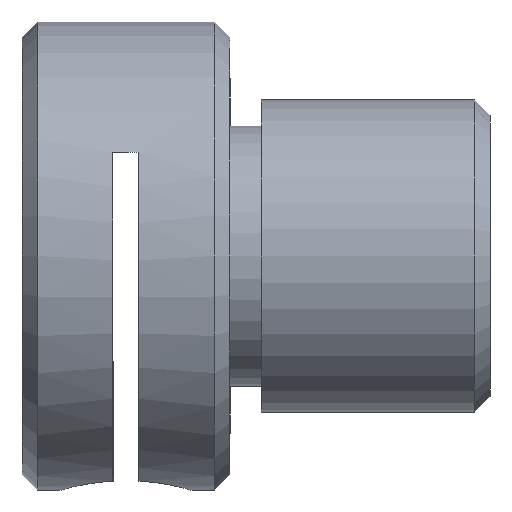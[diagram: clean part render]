
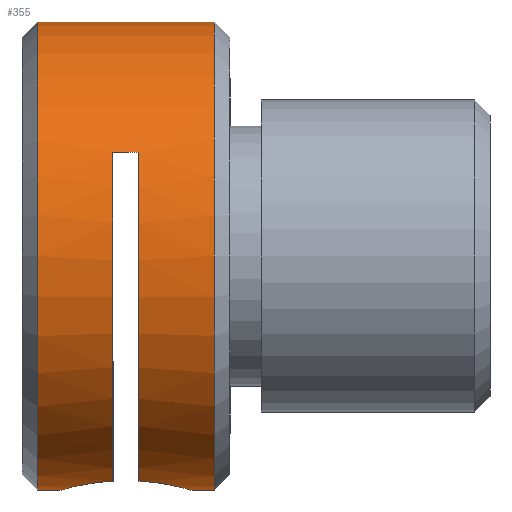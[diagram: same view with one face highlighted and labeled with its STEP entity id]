
A CAD part, left-side view. The second image highlights one B-rep face of the part: STEP entity #355.
In plain terms, the highlighted cylindrical face has radius 4.5 mm (diameter 9 mm), a partial arc.
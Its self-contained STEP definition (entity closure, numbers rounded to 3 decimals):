
#1 = EDGE_CURVE ( 'NONE', #195, #173, #356, .T. ) ;
#2 = CARTESIAN_POINT ( 'NONE',  ( -0.902, 2.877, -4.41 ) ) ;
#8 = CARTESIAN_POINT ( 'NONE',  ( -0.996, 1.232, -4.389 ) ) ;
#15 = CARTESIAN_POINT ( 'NONE',  ( -0.555, 0.871, -4.468 ) ) ;
#16 = DIRECTION ( 'NONE',  ( 0., 0., -1. ) ) ;
#17 = DIRECTION ( 'NONE',  ( 0., -1., 0. ) ) ;
#33 = VERTEX_POINT ( 'NONE', #726 ) ;
#61 = DIRECTION ( 'NONE',  ( 0., -1., 0. ) ) ;
#67 = B_SPLINE_CURVE_WITH_KNOTS ( 'NONE', 3,
 ( #626, #487, #423, #8, #680, #77, #15, #346, #81, #349 ),
 .UNSPECIFIED., .F., .F.,
 ( 4, 2, 2, 2, 4 ),
 ( 0.002, 0.003, 0.003, 0.003, 0.004 ),
 .UNSPECIFIED. ) ;
#68 = CARTESIAN_POINT ( 'NONE',  ( 0., 3.7, 0. ) ) ;
#72 = CARTESIAN_POINT ( 'NONE',  ( -0.145, 3.25, -4.5 ) ) ;
#75 = CIRCLE ( 'NONE', #188, 4.5 ) ;
#77 = CARTESIAN_POINT ( 'NONE',  ( -0.682, 0.943, -4.449 ) ) ;
#80 = EDGE_CURVE ( 'NONE', #689, #99, #580, .T. ) ;
#81 = CARTESIAN_POINT ( 'NONE',  ( -0.143, 0.75, -4.5 ) ) ;
#87 = VECTOR ( 'NONE', #17, 1000. ) ;
#88 = ORIENTED_EDGE ( 'NONE', *, *, #471, .T. ) ;
#93 = CARTESIAN_POINT ( 'NONE',  ( -4.031, 2.25, 2. ) ) ;
#99 = VERTEX_POINT ( 'NONE', #248 ) ;
#102 = DIRECTION ( 'NONE',  ( 0., 0., 1. ) ) ;
#104 = ORIENTED_EDGE ( 'NONE', *, *, #508, .T. ) ;
#112 = DIRECTION ( 'NONE',  ( 0., 0., -1. ) ) ;
#116 = AXIS2_PLACEMENT_3D ( 'NONE', #778, #502, #112 ) ;
#125 = EDGE_CURVE ( 'NONE', #852, #646, #515, .T. ) ;
#129 = AXIS2_PLACEMENT_3D ( 'NONE', #533, #601, #611 ) ;
#152 = FACE_OUTER_BOUND ( 'NONE', #577, .T. ) ;
#166 = ORIENTED_EDGE ( 'NONE', *, *, #785, .T. ) ;
#173 = VERTEX_POINT ( 'NONE', #864 ) ;
#188 = AXIS2_PLACEMENT_3D ( 'NONE', #579, #314, #102 ) ;
#192 = VERTEX_POINT ( 'NONE', #602 ) ;
#193 = CARTESIAN_POINT ( 'NONE',  ( -0.681, 3.058, -4.45 ) ) ;
#195 = VERTEX_POINT ( 'NONE', #400 ) ;
#200 = VECTOR ( 'NONE', #61, 1000. ) ;
#204 = CARTESIAN_POINT ( 'NONE',  ( -0.557, 3.128, -4.467 ) ) ;
#206 = ORIENTED_EDGE ( 'NONE', *, *, #125, .T. ) ;
#215 = VECTOR ( 'NONE', #737, 1000. ) ;
#248 = CARTESIAN_POINT ( 'NONE',  ( -1.225, 2.25, -4.33 ) ) ;
#258 = LINE ( 'NONE', #869, #215 ) ;
#261 = CARTESIAN_POINT ( 'NONE',  ( -0.286, 3.225, -4.493 ) ) ;
#265 = DIRECTION ( 'NONE',  ( 0., 0., 1. ) ) ;
#300 = LINE ( 'NONE', #584, #410 ) ;
#310 = AXIS2_PLACEMENT_3D ( 'NONE', #68, #389, #265 ) ;
#314 = DIRECTION ( 'NONE',  ( 0., 1., 0. ) ) ;
#320 = CARTESIAN_POINT ( 'NONE',  ( 0., 4., -4.5 ) ) ;
#346 = CARTESIAN_POINT ( 'NONE',  ( -0.287, 0.775, -4.493 ) ) ;
#348 = ORIENTED_EDGE ( 'NONE', *, *, #561, .T. ) ;
#349 = CARTESIAN_POINT ( 'NONE',  ( 0., 0.75, -4.5 ) ) ;
#355 = ADVANCED_FACE ( 'NONE', ( #152 ), #358, .T. ) ;
#356 = LINE ( 'NONE', #835, #87 ) ;
#358 = CYLINDRICAL_SURFACE ( 'NONE', #553, 4.5 ) ;
#379 = CARTESIAN_POINT ( 'NONE',  ( 0., 3.7, 4.5 ) ) ;
#389 = DIRECTION ( 'NONE',  ( 0., -1., 0. ) ) ;
#400 = CARTESIAN_POINT ( 'NONE',  ( 0., 0.75, -4.5 ) ) ;
#410 = VECTOR ( 'NONE', #721, 1000. ) ;
#423 = CARTESIAN_POINT ( 'NONE',  ( -1.143, 1.474, -4.353 ) ) ;
#453 = CARTESIAN_POINT ( 'NONE',  ( -1.196, 2.391, -4.338 ) ) ;
#459 = VERTEX_POINT ( 'NONE', #588 ) ;
#467 = CARTESIAN_POINT ( 'NONE',  ( 0., 3.25, -4.5 ) ) ;
#471 = EDGE_CURVE ( 'NONE', #689, #33, #300, .T. ) ;
#487 = CARTESIAN_POINT ( 'NONE',  ( -1.196, 1.61, -4.338 ) ) ;
#502 = DIRECTION ( 'NONE',  ( 0., -1., 0. ) ) ;
#508 = EDGE_CURVE ( 'NONE', #173, #459, #75, .T. ) ;
#515 = LINE ( 'NONE', #320, #200 ) ;
#527 = EDGE_CURVE ( 'NONE', #829, #459, #258, .T. ) ;
#529 = B_SPLINE_CURVE_WITH_KNOTS ( 'NONE', 3,
 ( #467, #72, #261, #204, #193, #2, #542, #530, #453, #592 ),
 .UNSPECIFIED., .F., .F.,
 ( 4, 2, 2, 2, 4 ),
 ( 0., 0., 0.001, 0.001, 0.002 ),
 .UNSPECIFIED. ) ;
#530 = CARTESIAN_POINT ( 'NONE',  ( -1.144, 2.524, -4.353 ) ) ;
#533 = CARTESIAN_POINT ( 'NONE',  ( 0., 1.75, 0. ) ) ;
#542 = CARTESIAN_POINT ( 'NONE',  ( -0.996, 2.769, -4.389 ) ) ;
#544 = ORIENTED_EDGE ( 'NONE', *, *, #527, .F. ) ;
#553 = AXIS2_PLACEMENT_3D ( 'NONE', #688, #624, #16 ) ;
#561 = EDGE_CURVE ( 'NONE', #829, #852, #815, .T. ) ;
#577 = EDGE_LOOP ( 'NONE', ( #544, #348, #206, #714, #703, #88, #671, #166, #868, #104 ) ) ;
#578 = CIRCLE ( 'NONE', #129, 4.5 ) ;
#579 = CARTESIAN_POINT ( 'NONE',  ( 0., 0.3, 0. ) ) ;
#580 = CIRCLE ( 'NONE', #116, 4.5 ) ;
#584 = CARTESIAN_POINT ( 'NONE',  ( -4.031, 4., 2. ) ) ;
#588 = CARTESIAN_POINT ( 'NONE',  ( 0., 0.3, 4.5 ) ) ;
#592 = CARTESIAN_POINT ( 'NONE',  ( -1.225, 2.25, -4.33 ) ) ;
#601 = DIRECTION ( 'NONE',  ( 0., 1., 0. ) ) ;
#602 = CARTESIAN_POINT ( 'NONE',  ( -1.225, 1.75, -4.33 ) ) ;
#611 = DIRECTION ( 'NONE',  ( 0., 0., 1. ) ) ;
#624 = DIRECTION ( 'NONE',  ( 0., -1., 0. ) ) ;
#626 = CARTESIAN_POINT ( 'NONE',  ( -1.225, 1.75, -4.33 ) ) ;
#629 = EDGE_CURVE ( 'NONE', #192, #33, #578, .T. ) ;
#646 = VERTEX_POINT ( 'NONE', #804 ) ;
#650 = EDGE_CURVE ( 'NONE', #646, #99, #529, .T. ) ;
#671 = ORIENTED_EDGE ( 'NONE', *, *, #629, .F. ) ;
#680 = CARTESIAN_POINT ( 'NONE',  ( -0.901, 1.122, -4.41 ) ) ;
#688 = CARTESIAN_POINT ( 'NONE',  ( 0., 4., 0. ) ) ;
#689 = VERTEX_POINT ( 'NONE', #93 ) ;
#703 = ORIENTED_EDGE ( 'NONE', *, *, #80, .F. ) ;
#714 = ORIENTED_EDGE ( 'NONE', *, *, #650, .T. ) ;
#721 = DIRECTION ( 'NONE',  ( 0., -1., 0. ) ) ;
#726 = CARTESIAN_POINT ( 'NONE',  ( -4.031, 1.75, 2. ) ) ;
#737 = DIRECTION ( 'NONE',  ( 0., -1., 0. ) ) ;
#778 = CARTESIAN_POINT ( 'NONE',  ( 0., 2.25, 0. ) ) ;
#785 = EDGE_CURVE ( 'NONE', #192, #195, #67, .T. ) ;
#804 = CARTESIAN_POINT ( 'NONE',  ( 0., 3.25, -4.5 ) ) ;
#815 = CIRCLE ( 'NONE', #310, 4.5 ) ;
#829 = VERTEX_POINT ( 'NONE', #379 ) ;
#831 = CARTESIAN_POINT ( 'NONE',  ( 0., 3.7, -4.5 ) ) ;
#835 = CARTESIAN_POINT ( 'NONE',  ( 0., 4., -4.5 ) ) ;
#852 = VERTEX_POINT ( 'NONE', #831 ) ;
#864 = CARTESIAN_POINT ( 'NONE',  ( 0., 0.3, -4.5 ) ) ;
#868 = ORIENTED_EDGE ( 'NONE', *, *, #1, .T. ) ;
#869 = CARTESIAN_POINT ( 'NONE',  ( 0., 4., 4.5 ) ) ;
